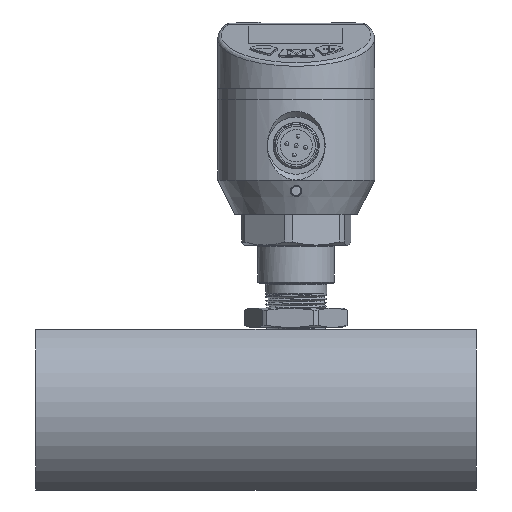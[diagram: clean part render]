
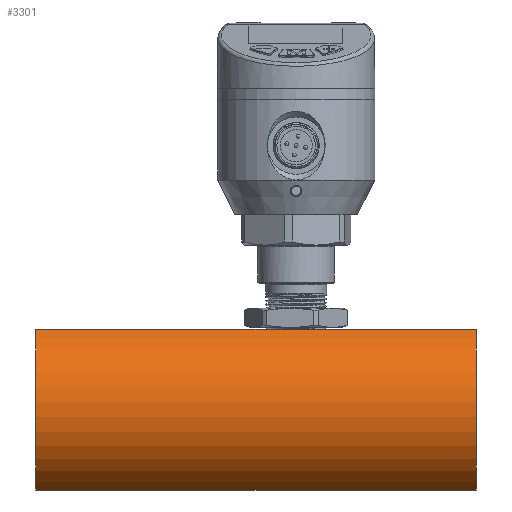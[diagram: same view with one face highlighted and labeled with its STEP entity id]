
A CAD part, left-side view. The second image highlights one B-rep face of the part: STEP entity #3301.
In plain terms, the highlighted cylindrical face has radius 24 mm (diameter 48 mm), a partial arc.
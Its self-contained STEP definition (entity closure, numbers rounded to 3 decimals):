
#1767=LINE('',#14698,#2153);
#1770=LINE('',#14706,#2156);
#2153=VECTOR('',#9284,1.);
#2156=VECTOR('',#9291,1.);
#2771=CYLINDRICAL_SURFACE('',#8501,24.);
#2915=CIRCLE('',#8498,24.);
#2916=CIRCLE('',#8500,24.);
#3301=ADVANCED_FACE('',(#3787),#2771,.T.);
#3787=FACE_OUTER_BOUND('',#4166,.T.);
#4166=EDGE_LOOP('',(#4817,#4818,#4819,#4820));
#4817=ORIENTED_EDGE('',*,*,#7342,.T.);
#4818=ORIENTED_EDGE('',*,*,#7340,.F.);
#4819=ORIENTED_EDGE('',*,*,#7343,.T.);
#4820=ORIENTED_EDGE('',*,*,#7336,.F.);
#6670=VERTEX_POINT('',#14697);
#6671=VERTEX_POINT('',#14699);
#6673=VERTEX_POINT('',#14705);
#6674=VERTEX_POINT('',#14707);
#7336=EDGE_CURVE('',#6670,#6671,#1767,.T.);
#7340=EDGE_CURVE('',#6673,#6674,#1770,.T.);
#7342=EDGE_CURVE('',#6670,#6674,#2915,.T.);
#7343=EDGE_CURVE('',#6673,#6671,#2916,.T.);
#8498=AXIS2_PLACEMENT_3D('',#14710,#9295,#9296);
#8500=AXIS2_PLACEMENT_3D('',#14712,#9299,#9300);
#8501=AXIS2_PLACEMENT_3D('',#14713,#9301,#9302);
#9284=DIRECTION('',(0.,1.,0.));
#9291=DIRECTION('',(0.,-1.,0.));
#9295=DIRECTION('',(0.,1.,0.));
#9296=DIRECTION('',(-1.,0.,0.));
#9299=DIRECTION('',(0.,-1.,0.));
#9300=DIRECTION('',(1.,0.,0.));
#9301=DIRECTION('',(0.,-1.,0.));
#9302=DIRECTION('',(-1.,0.,0.));
#14697=CARTESIAN_POINT('',(13.881,-10.6,-136.));
#14698=CARTESIAN_POINT('',(13.881,129.05,-136.));
#14699=CARTESIAN_POINT('',(13.881,104.4,-136.));
#14705=CARTESIAN_POINT('',(13.881,104.4,-94.));
#14706=CARTESIAN_POINT('',(13.881,129.05,-94.));
#14707=CARTESIAN_POINT('',(13.881,-10.6,-94.));
#14710=CARTESIAN_POINT('',(25.5,-10.6,-115.));
#14712=CARTESIAN_POINT('',(25.5,104.4,-115.));
#14713=CARTESIAN_POINT('',(25.5,129.05,-115.));
